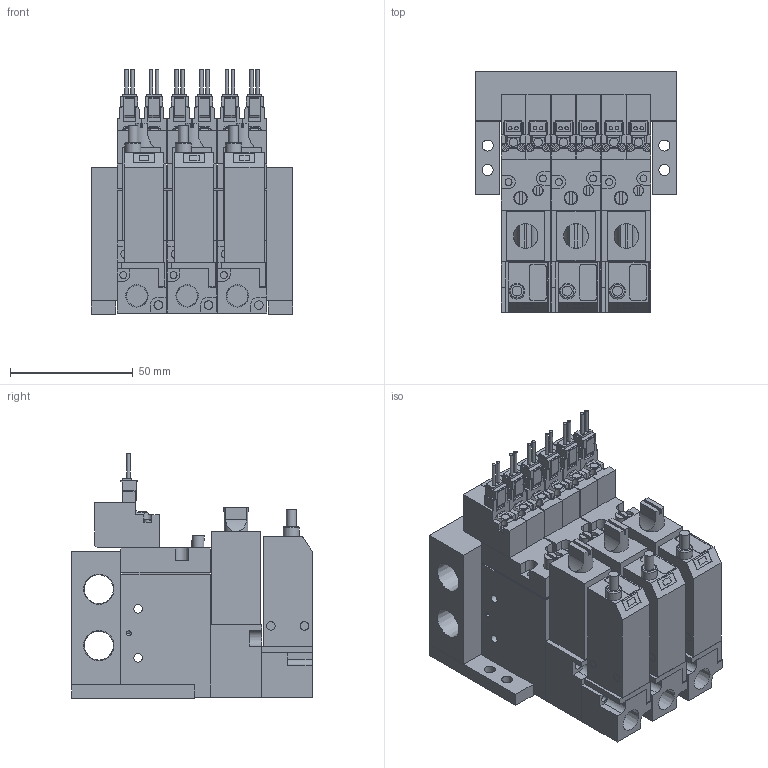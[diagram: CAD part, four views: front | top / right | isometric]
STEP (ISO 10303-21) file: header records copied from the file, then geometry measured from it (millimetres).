
FILE_DESCRIPTION(('STEP AP203'),'1');
FILE_NAME('BMPV32M2NAB25BL303.stp','2025-06-17T00:16:04',(' '),(' '),'Spatial InterOp 3D',' ',' ');
FILE_SCHEMA(('CONFIG_CONTROL_DESIGN'));
Length unit declared in the file: millimetre
Products named in the file (40): BMPV32M2NAB25BL303; Filter Assy; __; _____; MB03; MB BRACKET; Pressure sensor ABSL; ___ ___2; ___-2(Rc); ___; upper plate-A; ______; ____; VACUUM VALVE FUNCTION MPV42-A
Assembly tree (39 placements, depth 2):
  BMPV32M2NAB25BL303
    Filter Assy
    __
    _____
    Filter Assy
    __
    _____
    MB03
    MB BRACKET
    MB BRACKET
    Filter Assy
    __
    _____
    Pressure sensor ABSL
    ___ ___2
    ___-2(Rc)
    ___-2(Rc)
    ___ ___2
    Pressure sensor ABSL
    ___-2(Rc)
    ___ ___2
    Pressure sensor ABSL
    ___
    upper plate-A
    ______
    ____
    VACUUM VALVE FUNCTION MPV42-A
    VACUUM VALVE FUNCTION MPV42-A
    ___
    upper plate-A
    ______
    ____
    VACUUM VALVE FUNCTION MPV42-A
    VACUUM VALVE FUNCTION MPV42-A
    ___
    upper plate-A
    ______
    ____
    VACUUM VALVE FUNCTION MPV42-A
    VACUUM VALVE FUNCTION MPV42-A
Bounding box: 82 x 98 x 99.75 mm (x, y, z)
Volume: 368641.4 mm3; surface area: 123180.9 mm2
Topology: 39 solids, 39 shells, 1151 faces, 2980 edges, 1981 vertices
Faces by surface type: plane 915, cylinder 207, cone 26, torus 3
Full cylindrical faces by diameter (mm): 1.4 x12, 1.8 x6, 2 x6, 2.5 x10, 2.8 x12, 3 x12, 3.5 x40, 4 x6, 4.2 x3, 4.5 x4, 5 x3, 5.5 x3, 6.5 x9, 8.522 x3, 11.776 x2
Entity records: 36000 total; most frequent: CARTESIAN_POINT 6114, DIRECTION 5658, ORIENTED_EDGE 5518, EDGE_CURVE 2759, LINE 2218, VECTOR 2218, VERTEX_POINT 1942, AXIS2_PLACEMENT_3D 1720
